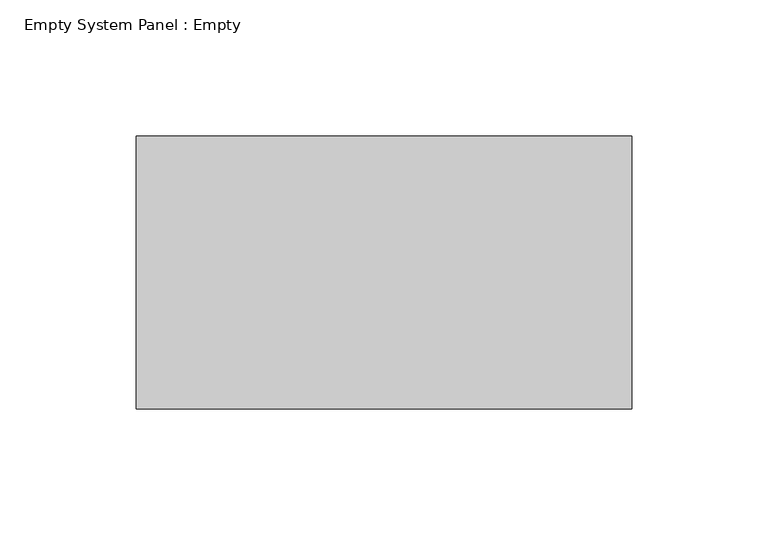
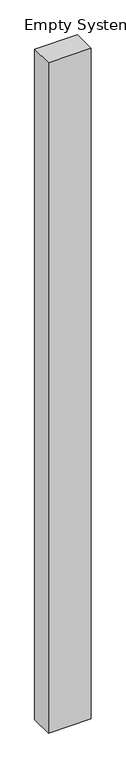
"""IFC4 building model written with IfcOpenShell, lengths in millimetres: plate geometry, Empty System Panel : Empty."""

from ifc_helpers import new_model, si_unit, origin, origin_with_axes, place, context, project, spatial, polyline, outline, extrude, source, transform, mapped, element, save


def empty_system_panel_empty_c6c0e791(model_context):
    return source(origin(), model_context, "Body", "SweptSolid", [
        extrude(outline(polyline([(90.75, -50.0), (-90.75, -50.0), (-90.75, 50.0), (90.75, 50.0), (90.75, -50.0)])), origin_with_axes(), (0.0, 0.0, 1.0), 3000.0),
    ])


if __name__ == "__main__":
    model = new_model("IFC4")
    model_context = context("Model", 3, world=origin())
    ifc_project = project(units=[si_unit("LENGTHUNIT", "METRE", prefix="MILLI")], contexts=[model_context])
    site = spatial("IfcSite", under=ifc_project)
    building = spatial("IfcBuilding", under=site)
    placement = place(None, origin())
    empty_system_panel_empty_shape = empty_system_panel_empty_c6c0e791(model_context)
    element("IfcPlate", 1, ObjectType="Empty System Panel : Empty", at=placement, inside=building, context=model_context, shape_type="MappedRepresentation", body=[
        mapped(empty_system_panel_empty_shape, transform((0.0, 0.0, 0.0), x_axis=(1.0, 0.0, 0.0), y_axis=(0.0, 1.0, 0.0), z_axis=(0.0, 0.0, 1.0))),
    ])
    save(model, "model.ifc")
